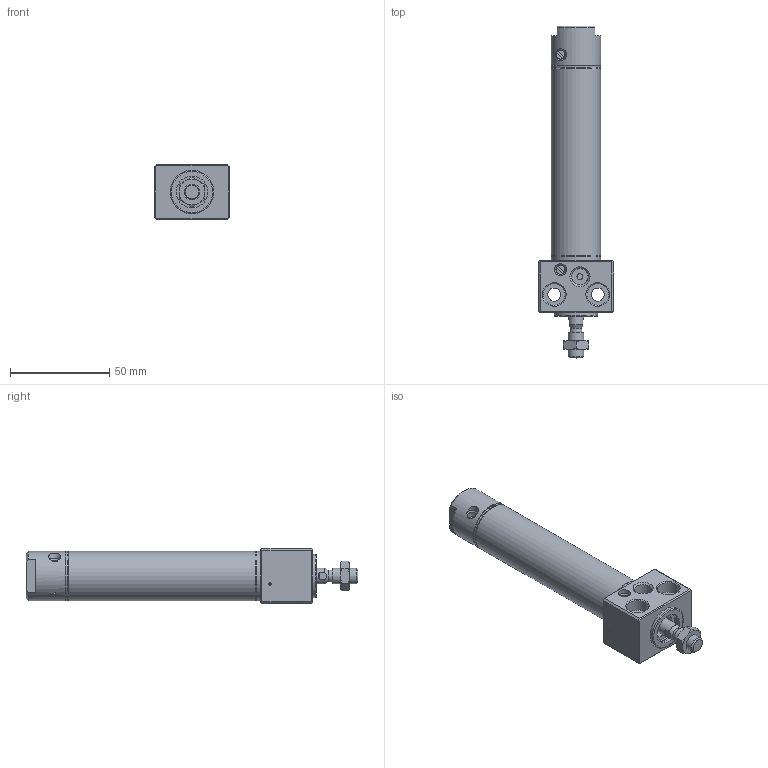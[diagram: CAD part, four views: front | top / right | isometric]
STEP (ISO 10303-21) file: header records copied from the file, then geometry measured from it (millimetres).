
FILE_DESCRIPTION((''),'2;1');
FILE_NAME('I:\3D電子目錄\氣缸\DBS\DBS\DBS20x50-C.stp','2007-10-08T08:30:48',('Administrator'),(''),'Autodesk Inventor 2008','Autodesk Inventor 2008','');
FILE_SCHEMA(('AUTOMOTIVE_DESIGN { 1 0 10303 214 1 1 1 1 }'));
Length unit declared in the file: millimetre
Products named in the file (1): DBS20x50-C
Bounding box: 38 x 167.6 x 28 mm (x, y, z)
Volume: 55468.8 mm3; surface area: 30295.3 mm2
Topology: 8 solids, 8 shells, 206 faces, 422 edges, 260 vertices
Faces by surface type: plane 91, cone 50, cylinder 49, bspline 13, torus 3
Full cylindrical faces by diameter (mm): 1.2 x1, 1.9 x2, 3 x3, 3.3 x2, 4.6 x2, 5 x3, 6 x4, 8 x3, 8.5 x1, 10 x1, 10.5 x2, 12 x3, 14.5 x2, 16 x2, 17 x1, 18 x2, 20 x1, 20.2 x2, 22 x1, 22.2 x6, 25 x4
Entity records: 5331 total; most frequent: CARTESIAN_POINT 1411, DIRECTION 818, ORIENTED_EDGE 632, AXIS2_PLACEMENT_3D 362, EDGE_LOOP 351, EDGE_CURVE 316, VERTEX_POINT 245, FACE_OUTER_BOUND 206
